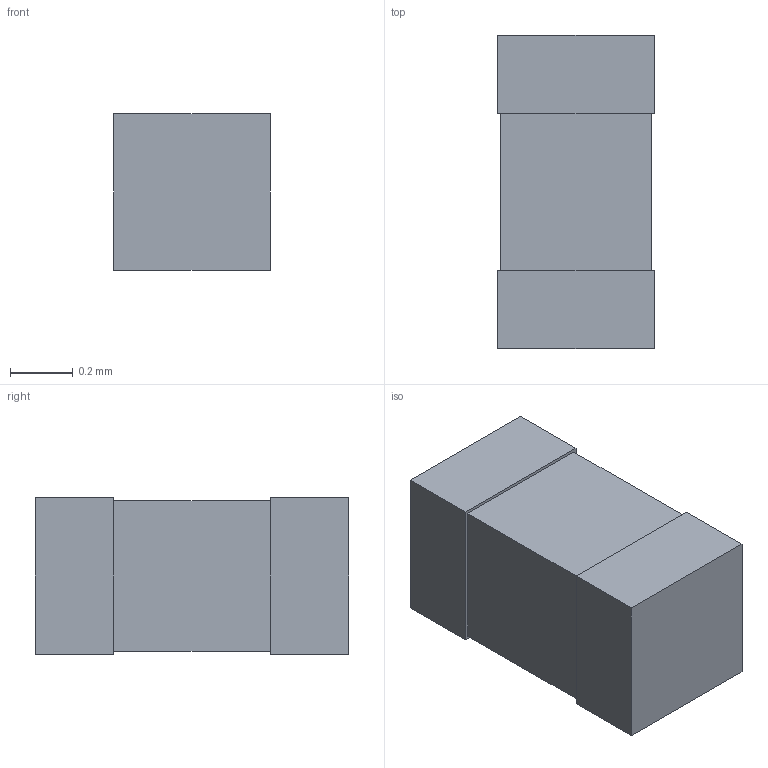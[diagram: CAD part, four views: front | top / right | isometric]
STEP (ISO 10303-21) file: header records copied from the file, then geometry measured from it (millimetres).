
FILE_DESCRIPTION(('STEP AP214'),'1');
FILE_NAME('0402 Resistor Step.step','2021-04-29T18:15:08',(' '),('ANSOFT Corporation'),'Spatial InterOp 3D',' ',' ');
FILE_SCHEMA(('AUTOMOTIVE_DESIGN { 1 0 10303 214 1 1 1 1 }'));
Length unit declared in the file: millimetre
Products named in the file (1): Chip
Bounding box: 0.5 x 1 x 0.5 mm (x, y, z)
Volume: 0.2 mm3; surface area: 5.3 mm2
Topology: 3 solids, 3 shells, 28 faces, 60 edges, 40 vertices
Faces by surface type: plane 28
Entity records: 792 total; most frequent: CARTESIAN_POINT 131, DIRECTION 122, ORIENTED_EDGE 120, EDGE_CURVE 60, LINE 60, VECTOR 60, VERTEX_POINT 40, AXIS2_PLACEMENT_3D 31
